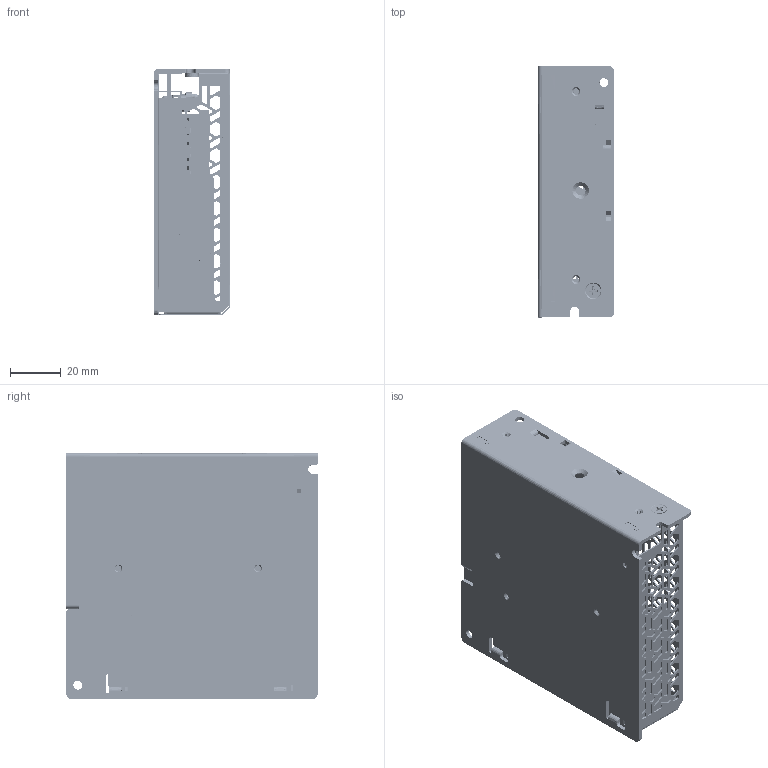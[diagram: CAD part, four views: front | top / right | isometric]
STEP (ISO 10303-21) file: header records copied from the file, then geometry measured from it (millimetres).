
FILE_DESCRIPTION((''),'2;1');
FILE_NAME('00-CASE-LM100R2_ASM_ASM','2022-10-08T',('pe216'),(''),'PRO/ENGINEER BY PARAMETRIC TECHNOLOGY CORPORATION, 2014000','PRO/ENGINEER BY PARAMETRIC TECHNOLOGY CORPORATION, 2014000','');
FILE_SCHEMA(('AUTOMOTIVE_DESIGN { 1 0 10303 214 1 1 1 1 }'));
Products named in the file (1): 00-CASE-LM100R2_ASM_ASM
Bounding box: 30 x 99 x 97.03 mm (x, y, z)
Surface area: 89661 mm2 (no closed solid volume)
Topology: 0 solids, 0 shells, 5885 faces, 34803 edges, 34744 vertices
Faces by surface type: bspline 5885
Entity records: 601636 total; most frequent: CARTESIAN_POINT 285576, DIRECTION 47363, TRIMMED_CURVE 42769, VECTOR 38175, LINE 38175, DEFINITIONAL_REPRESENTATION 34756, PCURVE 34756, COMPOSITE_CURVE_SEGMENT 34756
